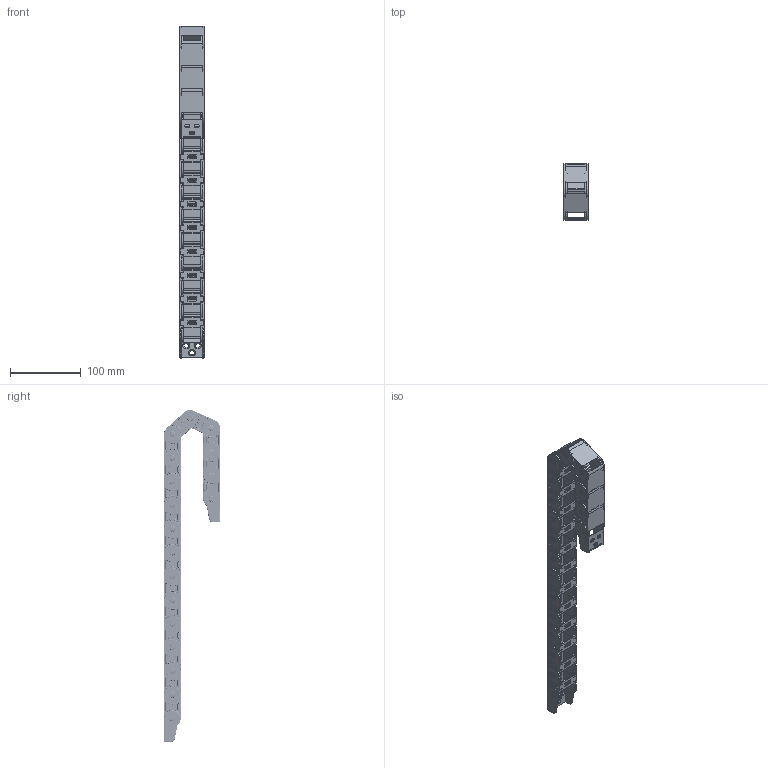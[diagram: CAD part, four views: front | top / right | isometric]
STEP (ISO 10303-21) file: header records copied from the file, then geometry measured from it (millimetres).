
FILE_DESCRIPTION (( 'STEP AP203' ), '1' );
FILE_NAME ('5F-J18BF.1.25NR28-3D半封闭内开组件图.STEP', '2017-04-05T05:00:14', ( 'china' ), ( 'china' ), 'SwSTEP 2.0', 'SolidWorks 2016', '' );
FILE_SCHEMA (( 'CONFIG_CONTROL_DESIGN' ));
Length unit declared in the file: millimetre
Products named in the file (5): 18X25BF-FW-1_1; J18BF.1.25XJT-N-FW_1; J18BF.1.25XJT-W-FW_1; 5F-J18BF.1.25NR28-3D半封闭内开组件图; F-18BFX25-翋极芞_1
Assembly tree (20 placements, depth 3):
  5F-J18BF.1.25NR28-3D半封闭内开组件图
    18X25BF-FW-1_1  x17
      F-18BFX25-翋极芞_1
    J18BF.1.25XJT-N-FW_1
    J18BF.1.25XJT-W-FW_1
Bounding box: 35.85 x 79 x 469.17 mm (x, y, z)
Volume: 162002 mm3; surface area: 166804.5 mm2
Topology: 19 solids, 19 shells, 6241 faces, 16040 edges, 10156 vertices
Faces by surface type: plane 2767, bspline 1514, cylinder 1298, torus 327, cone 301, sphere 34
Entity records: 20691 total; most frequent: CARTESIAN_POINT 7920, ORIENTED_EDGE 2584, DIRECTION 2262, EDGE_CURVE 1292, VERTEX_POINT 812, VECTOR 756, LINE 756, AXIS2_PLACEMENT_3D 753
